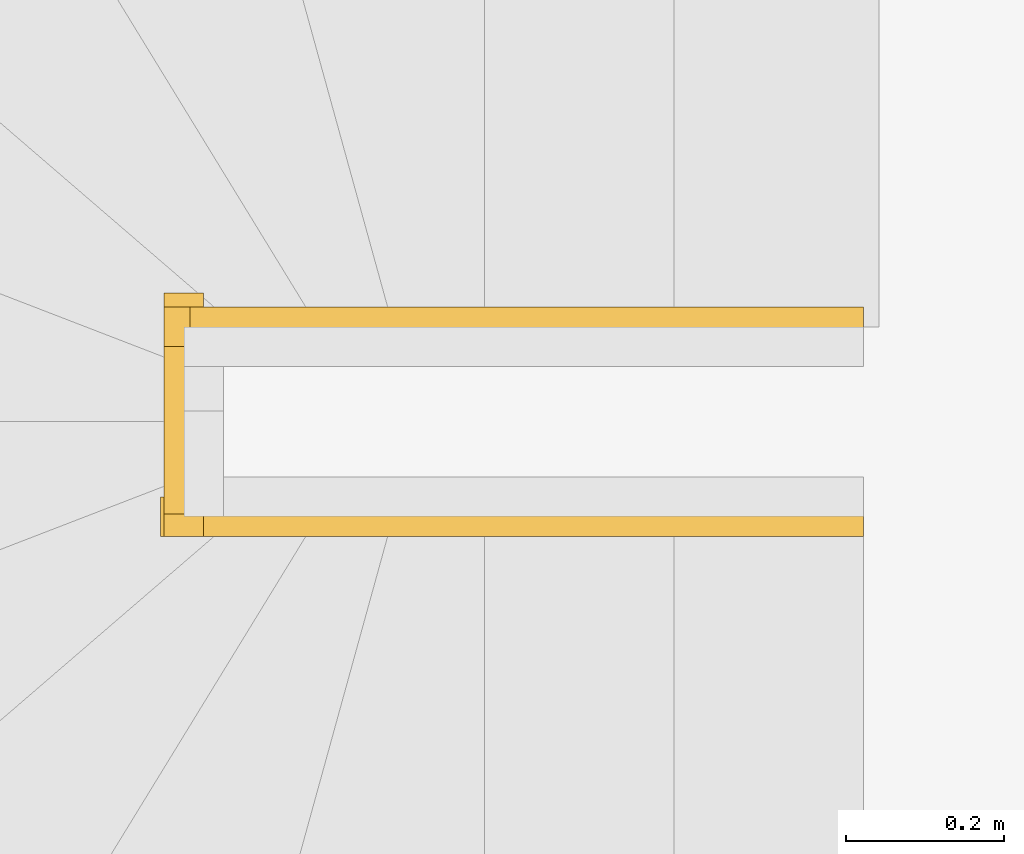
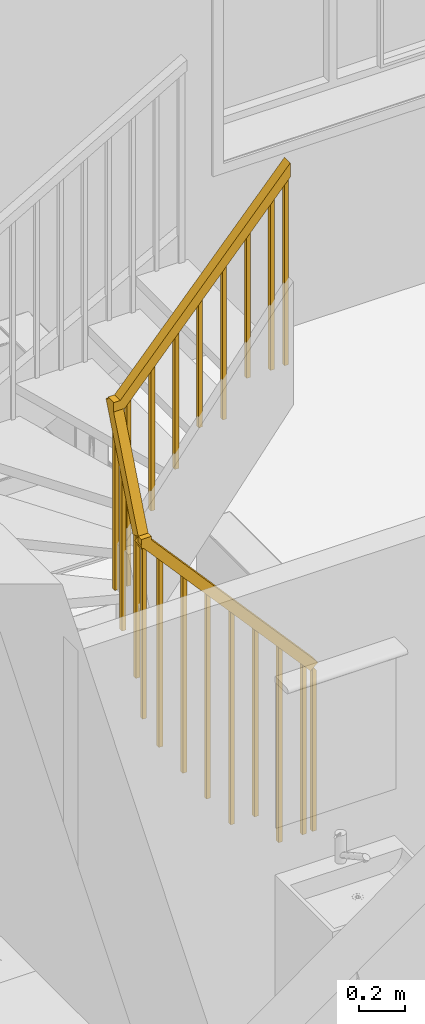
# One storey, part 32 of 65: 1 railing, 1 element without a shape of its own.
"""IFC2X3 building model written with IfcOpenShell, lengths in millimetres."""

from ifc_helpers import new_model, entity, si_unit, converted_unit, direction, frame, origin, place, context, subcontext, project, spatial, faceted_brep, material, type_object, element, aggregate, save


model = new_model("IFC2X3")

# Units and contexts
model_context = context("Model", 3, precision=0.01, world=origin(), true_north=direction((0.0, 1.0)))
body_context = subcontext(model_context, "Body", "Model", "MODEL_VIEW")
ifc_project = project(units=[si_unit("LENGTHUNIT", "METRE", prefix="MILLI"), si_unit("AREAUNIT", "SQUARE_METRE"), si_unit("VOLUMEUNIT", "CUBIC_METRE"), converted_unit("PLANEANGLEUNIT", "DEGREE", entity("IfcPlaneAngleMeasure", 0.017453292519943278), si_unit("PLANEANGLEUNIT", "RADIAN"), dimensions=[0, 0, 0, 0, 0, 0, 0])], contexts=[model_context])

# Site, building, storey
site_placement = place(None, origin())
site = spatial("IfcSite", under=ifc_project, at=site_placement, Name="Default", CompositionType="ELEMENT")
building_placement = place(site_placement, origin())
building = spatial("IfcBuilding", under=site, at=building_placement, CompositionType="ELEMENT")
storey_placement = place(building_placement, origin())
storey = spatial("IfcBuildingStorey", under=building, at=storey_placement, Name="Et. 1", CompositionType="ELEMENT", Elevation=0.0)

# Stair, railing
type_product = type_object("IfcTypeProduct", Name="Assembled Stair:Tretrapp - Åpne trinn m/ vanger")
stair_placement = place(storey_placement, origin())
stair = element("IfcStair", 1, at=stair_placement, inside=storey, type_object=type_product, Name="Assembled Stair:Stair", ShapeType="NOTDEFINED")
ifc_material = material(Name="Metall - Malt - MØRK GRÅ MATT")
railing_type = type_object("IfcRailingType", Name="Railing:900mm", PredefinedType="NOTDEFINED")
railing_placement = place(stair_placement, frame((29244.898701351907, 12144.751787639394, 178.73333333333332)))
railing = element("IfcRailing", 2, at=railing_placement, type_object=railing_type, material=ifc_material, Name="Railing:900mm", PredefinedType="NOTDEFINED", context=body_context, shape_type="Brep", body=[
    faceted_brep([(799.569754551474, 275.79999999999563, 3249.8664435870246), (799.569754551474, 275.79999999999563, 2323.5333333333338), (799.569754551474, 255.79999999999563, 2323.5333333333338), (799.569754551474, 255.79999999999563, 3249.8664435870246), (819.5697545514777, 255.79999999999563, 2323.5333333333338), (819.569754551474, 255.79999999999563, 3272.3984052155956), (819.5697545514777, 275.79999999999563, 2323.5333333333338), (819.5697545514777, 275.79999999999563, 3272.3984052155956)], [[[0, 1, 2, 3]], [[3, 2, 4, 5]], [[5, 4, 6, 7]], [[1, 0, 7, 6]], [[0, 3, 5, 7]], [[2, 1, 6, 4]]]),
    faceted_brep([(679.569754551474, 275.79999999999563, 3114.674673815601), (679.569754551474, 275.79999999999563, 2323.5333333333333), (679.569754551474, 255.79999999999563, 2323.5333333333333), (679.569754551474, 255.79999999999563, 3114.674673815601), (699.5697545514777, 255.79999999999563, 2323.5333333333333), (699.569754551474, 255.79999999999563, 3137.2066354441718), (699.5697545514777, 275.79999999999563, 2323.5333333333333), (699.5697545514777, 275.79999999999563, 3137.2066354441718)], [[[0, 1, 2, 3]], [[3, 2, 4, 5]], [[5, 4, 6, 7]], [[1, 0, 7, 6]], [[0, 3, 5, 7]], [[2, 1, 6, 4]]]),
    faceted_brep([(559.5697545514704, 275.79999999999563, 2979.482904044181), (559.5697545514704, 275.79999999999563, 2144.8000000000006), (559.5697545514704, 255.79999999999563, 2144.8000000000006), (559.5697545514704, 255.79999999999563, 2979.482904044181), (579.569754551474, 255.79999999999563, 2144.8000000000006), (579.5697545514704, 255.79999999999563, 3002.0148656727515), (579.569754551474, 275.79999999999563, 2144.8000000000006), (579.569754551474, 275.79999999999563, 3002.0148656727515)], [[[0, 1, 2, 3]], [[3, 2, 4, 5]], [[5, 4, 6, 7]], [[1, 0, 7, 6]], [[0, 3, 5, 7]], [[2, 1, 6, 4]]]),
    faceted_brep([(439.56975455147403, 275.79999999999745, 2844.291134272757), (439.56975455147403, 275.79999999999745, 2144.8000000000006), (439.56975455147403, 255.79999999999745, 2144.8000000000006), (439.56975455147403, 255.79999999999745, 2844.291134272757), (459.5697545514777, 255.79999999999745, 2144.8000000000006), (459.5697545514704, 255.79999999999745, 2866.823095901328), (459.5697545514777, 275.79999999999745, 2144.8000000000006), (459.5697545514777, 275.79999999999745, 2866.823095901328)], [[[0, 1, 2, 3]], [[3, 2, 4, 5]], [[5, 4, 6, 7]], [[1, 0, 7, 6]], [[0, 3, 5, 7]], [[2, 1, 6, 4]]]),
    faceted_brep([(319.56975455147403, 275.79999999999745, 2709.099364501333), (319.56975455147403, 275.79999999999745, 1966.0666666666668), (319.56975455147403, 255.79999999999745, 1966.0666666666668), (319.56975455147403, 255.79999999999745, 2709.099364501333), (339.5697545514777, 255.79999999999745, 1966.0666666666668), (339.56975455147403, 255.79999999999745, 2731.6313261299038), (339.5697545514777, 275.79999999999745, 1966.0666666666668), (339.5697545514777, 275.79999999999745, 2731.6313261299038)], [[[0, 1, 2, 3]], [[3, 2, 4, 5]], [[5, 4, 6, 7]], [[1, 0, 7, 6]], [[0, 3, 5, 7]], [[2, 1, 6, 4]]]),
    faceted_brep([(199.5697545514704, 275.79999999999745, 2573.907594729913), (199.5697545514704, 275.79999999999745, 1787.333333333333), (199.5697545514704, 255.79999999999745, 1787.333333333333), (199.5697545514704, 255.79999999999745, 2573.907594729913), (219.56975455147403, 255.79999999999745, 1787.333333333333), (219.5697545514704, 255.79999999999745, 2596.4395563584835), (219.56975455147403, 275.79999999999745, 1787.333333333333), (219.56975455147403, 275.79999999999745, 2596.4395563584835)], [[[0, 1, 2, 3]], [[3, 2, 4, 5]], [[5, 4, 6, 7]], [[1, 0, 7, 6]], [[0, 3, 5, 7]], [[2, 1, 6, 4]]]),
    faceted_brep([(79.5697545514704, 275.79999999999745, 2438.7158249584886), (79.5697545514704, 275.79999999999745, 1429.8666666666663), (79.5697545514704, 255.79999999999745, 1429.8666666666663), (79.5697545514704, 255.79999999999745, 2438.7158249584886), (99.56975455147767, 255.79999999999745, 1429.8666666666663), (99.5697545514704, 255.79999999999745, 2461.2477865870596), (99.56975455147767, 275.79999999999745, 1429.8666666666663), (99.56975455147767, 275.79999999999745, 2461.2477865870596)], [[[0, 1, 2, 3]], [[3, 2, 4, 5]], [[5, 4, 6, 7]], [[1, 0, 7, 6]], [[0, 3, 5, 7]], [[2, 1, 6, 4]]]),
    faceted_brep([(19.569754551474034, 195.0, 2224.260740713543), (19.569754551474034, 195.0, 1251.1333333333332), (39.56975455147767, 195.0, 1251.1333333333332), (39.569754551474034, 195.0, 2224.260740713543), (39.56975455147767, 215.0, 1251.1333333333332), (39.56975455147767, 215.0, 2273.9088888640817), (19.569754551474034, 215.0, 1251.1333333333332), (19.569754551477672, 215.0, 2273.9088888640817)], [[[0, 1, 2, 3]], [[3, 2, 4, 5]], [[5, 4, 6, 7]], [[1, 0, 7, 6]], [[0, 3, 5, 7]], [[2, 1, 6, 4]]]),
    faceted_brep([(19.569754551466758, 75.0, 1926.3718518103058), (19.569754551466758, 75.0, 1072.4000000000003), (39.569754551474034, 75.0, 1072.4000000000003), (39.56975455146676, 75.0, 1926.3718518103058), (39.569754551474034, 95.0, 1072.4000000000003), (39.569754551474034, 95.0, 1976.019999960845), (19.569754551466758, 95.0, 1072.4000000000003), (19.569754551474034, 95.0, 1976.019999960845)], [[[0, 1, 2, 3]], [[3, 2, 4, 5]], [[5, 4, 6, 7]], [[1, 0, 7, 6]], [[0, 3, 5, 7]], [[2, 1, 6, 4]]]),
    faceted_brep([(120.46305970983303, 15.0, 1717.4805225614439), (120.46305970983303, 15.0, 714.9333333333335), (120.46305970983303, 35.0, 714.9333333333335), (120.46305970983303, 35.0, 1717.4805225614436), (100.4630597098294, 35.0, 714.9333333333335), (100.46305970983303, 35.0, 1740.0124841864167), (100.4630597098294, 15.0, 714.9333333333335), (100.4630597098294, 15.0, 1740.0124841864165)], [[[0, 1, 2, 3]], [[3, 2, 4, 5]], [[5, 4, 6, 7]], [[1, 0, 7, 6]], [[0, 3, 5, 7]], [[2, 1, 6, 4]]]),
    faceted_brep([(240.46305970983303, 15.0, 1582.2887528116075), (240.46305970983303, 15.0, 536.2000000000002), (240.46305970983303, 35.0, 536.2000000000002), (240.46305970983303, 35.0, 1582.288752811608), (220.4630597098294, 35.0, 536.2000000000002), (220.46305970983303, 35.0, 1604.8207144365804), (220.4630597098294, 15.0, 536.2000000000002), (220.4630597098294, 15.0, 1604.8207144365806)], [[[0, 1, 2, 3]], [[3, 2, 4, 5]], [[5, 4, 6, 7]], [[1, 0, 7, 6]], [[0, 3, 5, 7]], [[2, 1, 6, 4]]]),
    faceted_brep([(360.46305970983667, 15.0, 1447.0969830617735), (360.46305970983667, 15.0, 357.4666666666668), (360.46305970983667, 35.0, 357.4666666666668), (360.46305970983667, 35.0, 1447.0969830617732), (340.46305970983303, 35.0, 357.4666666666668), (340.46305970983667, 35.0, 1469.628944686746), (340.46305970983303, 15.0, 357.4666666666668), (340.46305970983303, 15.0, 1469.628944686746)], [[[0, 1, 2, 3]], [[3, 2, 4, 5]], [[5, 4, 6, 7]], [[1, 0, 7, 6]], [[0, 3, 5, 7]], [[2, 1, 6, 4]]]),
    faceted_brep([(480.46305970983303, 15.0, 1311.9052133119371), (480.46305970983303, 15.0, 178.73333333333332), (480.46305970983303, 35.0, 178.73333333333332), (480.46305970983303, 35.0, 1311.9052133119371), (460.4630597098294, 35.0, 178.73333333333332), (460.46305970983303, 35.0, 1334.4371749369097), (460.4630597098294, 15.0, 178.73333333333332), (460.4630597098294, 15.0, 1334.4371749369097)], [[[0, 1, 2, 3]], [[3, 2, 4, 5]], [[5, 4, 6, 7]], [[1, 0, 7, 6]], [[0, 3, 5, 7]], [[2, 1, 6, 4]]]),
    faceted_brep([(600.463059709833, 15.0, 1176.7134435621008), (600.463059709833, 15.0, 178.73333333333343), (600.463059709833, 35.0, 178.73333333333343), (600.463059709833, 35.0, 1176.713443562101), (580.4630597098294, 35.0, 178.73333333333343), (580.463059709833, 35.0, 1199.2454051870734), (580.4630597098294, 15.0, 178.73333333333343), (580.4630597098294, 15.0, 1199.2454051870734)], [[[0, 1, 2, 3]], [[3, 2, 4, 5]], [[5, 4, 6, 7]], [[1, 0, 7, 6]], [[0, 3, 5, 7]], [[2, 1, 6, 4]]]),
    faceted_brep([(720.4630597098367, 15.0, 1041.521673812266), (720.4630597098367, 15.0, 0.0), (720.4630597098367, 35.0, 0.0), (720.4630597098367, 35.0, 1041.521673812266), (700.463059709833, 35.0, 0.0), (700.4630597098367, 35.0, 1064.0536354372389), (700.463059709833, 15.0, 0.0), (700.463059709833, 15.0, 1064.0536354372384)], [[[0, 1, 2, 3]], [[3, 2, 4, 5]], [[5, 4, 6, 7]], [[1, 0, 7, 6]], [[0, 3, 5, 7]], [[2, 1, 6, 4]]]),
    faceted_brep([(840.463059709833, 15.0, 906.3299040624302), (840.463059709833, 15.0, 0.0), (840.463059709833, 35.0, 0.0), (840.463059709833, 35.0, 906.3299040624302), (820.4630597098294, 35.0, 0.0), (820.463059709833, 35.0, 928.8618656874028), (820.4630597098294, 15.0, 0.0), (820.4630597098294, 15.0, 928.8618656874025)], [[[0, 1, 2, 3]], [[3, 2, 4, 5]], [[5, 4, 6, 7]], [[1, 0, 7, 6]], [[0, 3, 5, 7]], [[2, 1, 6, 4]]]),
    faceted_brep([(19.569754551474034, 255.79999999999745, 2391.200553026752), (19.569754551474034, 255.79999999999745, 1429.8666666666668), (39.56975455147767, 255.79999999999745, 1429.8666666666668), (39.569754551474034, 255.79999999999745, 2391.200553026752), (39.56975455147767, 275.79999999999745, 1429.8666666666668), (39.56975455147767, 275.79999999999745, 2391.200553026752), (19.569754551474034, 275.79999999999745, 1429.8666666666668), (19.569754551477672, 275.79999999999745, 2391.200553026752)], [[[0, 1, 2, 3]], [[3, 2, 4, 5]], [[5, 4, 6, 7]], [[1, 0, 7, 6]], [[0, 3, 5, 7]], [[2, 1, 6, 4]]]),
    faceted_brep([(39.569754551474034, 15.0, 1811.0661135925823), (39.569754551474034, 15.0, 893.6666666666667), (39.569754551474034, 35.0, 893.6666666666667), (39.569754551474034, 35.0, 1811.0661135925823), (19.569754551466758, 35.0, 893.6666666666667), (19.569754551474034, 35.0, 1811.0661135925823), (19.569754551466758, 15.0, 893.6666666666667), (19.569754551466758, 15.0, 1811.0661135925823)], [[[0, 1, 2, 3]], [[3, 2, 4, 5]], [[5, 4, 6, 7]], [[1, 0, 7, 6]], [[0, 3, 5, 7]], [[2, 1, 6, 4]]]),
    faceted_brep([(870.4630595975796, 275.79999999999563, 3329.734705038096), (870.4630595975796, 275.79999999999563, 2323.5333333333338), (870.4630595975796, 255.79999999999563, 2323.5333333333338), (870.4630595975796, 255.79999999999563, 3329.734705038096), (890.4630595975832, 255.79999999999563, 2323.5333333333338), (890.4630595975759, 255.79999999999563, 3352.266666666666), (890.4630595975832, 275.79999999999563, 2323.5333333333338), (890.4630595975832, 275.79999999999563, 3352.266666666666)], [[[0, 1, 2, 3]], [[3, 2, 4, 5]], [[5, 4, 6, 7]], [[1, 0, 7, 6]], [[0, 3, 5, 7]], [[2, 1, 6, 4]]]),
    faceted_brep([(890.463059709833, 15.0, 850.0), (890.463059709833, 15.0, 0.0), (890.463059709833, 35.0, 0.0), (890.463059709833, 35.0, 850.0), (870.4630597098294, 35.0, 0.0), (870.463059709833, 35.0, 872.5319616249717), (870.4630597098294, 15.0, 0.0), (870.4630597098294, 15.0, 872.5319616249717)], [[[0, 1, 2, 3]], [[3, 2, 4, 5]], [[5, 4, 6, 7]], [[1, 0, 7, 6]], [[0, 3, 5, 7]], [[2, 1, 6, 4]]]),
    faceted_brep([(890.4630597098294, 50.0, 900.0), (890.463059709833, 0.0, 900.0), (853.0691908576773, 0.0, 866.8081550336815), (853.0691908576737, 50.0, 866.8081550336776), (37.39386885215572, 50.0, 1861.066113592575), (0.0, 50.0, 1827.874268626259), (0.0, 0.0, 1827.8742686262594), (37.39386885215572, 0.0, 1861.0661135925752)], [[[0, 1, 2, 3]], [[4, 5, 6, 7]], [[1, 0, 4, 7]], [[2, 1, 7, 6]], [[3, 2, 6, 5]], [[0, 3, 5, 4]]]),
    faceted_brep([(37.39386885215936, 50.0, 1861.066113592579), (37.39386885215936, 0.0, 1861.066113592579), (37.39386885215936, 0.0, 1811.066113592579), (37.39386885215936, 50.0, 1811.066113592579), (29.569754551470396, 50.0, 1861.066113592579), (29.569754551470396, 50.0, 1811.066113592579), (29.569754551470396, 0.0, 1811.066113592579), (29.569754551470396, 0.0, 1861.066113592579)], [[[0, 1, 2, 3]], [[4, 5, 6, 7]], [[1, 0, 4, 7]], [[2, 1, 7, 6]], [[3, 2, 6, 5]], [[0, 3, 5, 4]]]),
    faceted_brep([(54.569754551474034, 0.0, 1861.066113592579), (4.569754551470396, 0.0, 1861.066113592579), (4.569754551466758, 0.0, 1811.066113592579), (54.569754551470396, 0.0, 1811.066113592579), (54.569754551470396, 28.550840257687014, 1861.066113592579), (54.569754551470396, 28.550840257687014, 1811.066113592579), (4.569754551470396, 28.550840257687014, 1811.066113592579), (4.569754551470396, 28.550840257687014, 1861.066113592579)], [[[0, 1, 2, 3]], [[4, 5, 6, 7]], [[1, 0, 4, 7]], [[2, 1, 7, 6]], [[3, 2, 6, 5]], [[0, 3, 5, 4]]]),
    faceted_brep([(54.569754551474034, 28.550840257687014, 1861.0661135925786), (4.569754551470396, 28.550840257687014, 1861.066113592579), (4.569754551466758, 74.92920139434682, 1842.3832974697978), (54.569754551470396, 74.92920139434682, 1842.3832974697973), (54.569754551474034, 262.24915974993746, 2441.200553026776), (54.569754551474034, 308.62752088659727, 2422.517736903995), (4.569754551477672, 308.62752088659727, 2422.517736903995), (4.569754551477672, 262.24915974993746, 2441.200553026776)], [[[0, 1, 2, 3]], [[4, 5, 6, 7]], [[1, 0, 4, 7]], [[2, 1, 7, 6]], [[3, 2, 6, 5]], [[0, 3, 5, 4]]]),
    faceted_brep([(4.569754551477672, 240.79999999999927, 2441.200553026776), (4.569754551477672, 290.79999999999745, 2441.200553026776), (4.569754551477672, 290.79999999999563, 2391.200553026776), (4.569754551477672, 240.79999999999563, 2391.200553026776), (37.39386883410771, 240.79999999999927, 2441.200553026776), (37.39386883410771, 290.79999999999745, 2441.200553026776), (59.868348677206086, 290.79999999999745, 2391.2005530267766), (59.868348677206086, 240.79999999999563, 2391.2005530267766), (890.4630595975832, 240.79999999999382, 3402.2666666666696), (890.4630595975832, 240.79999999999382, 3326.9469607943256), (890.4630595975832, 290.79999999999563, 3326.9469607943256), (890.4630595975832, 290.79999999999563, 3402.2666666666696)], [[[0, 1, 2, 3]], [[1, 0, 4, 5]], [[2, 1, 5, 6]], [[3, 2, 6, 7]], [[0, 3, 7, 4]], [[8, 9, 10, 11]], [[5, 4, 8, 11]], [[6, 5, 11, 10]], [[7, 6, 10, 9]], [[4, 7, 9, 8]]]),
    faceted_brep([(54.56975455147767, 262.24915974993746, 2441.200553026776), (4.569754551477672, 262.24915974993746, 2441.200553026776), (4.569754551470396, 262.24915974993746, 2391.200553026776), (54.569754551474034, 262.24915974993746, 2391.200553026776), (54.569754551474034, 265.79999999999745, 2441.200553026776), (54.569754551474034, 265.79999999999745, 2391.200553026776), (4.569754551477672, 265.79999999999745, 2391.200553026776), (4.569754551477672, 265.79999999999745, 2441.200553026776)], [[[0, 1, 2, 3]], [[4, 5, 6, 7]], [[1, 0, 4, 7]], [[2, 1, 7, 6]], [[3, 2, 6, 5]], [[0, 3, 5, 4]]]),
])
aggregate(stair, [railing])

save(model, "model.ifc")
